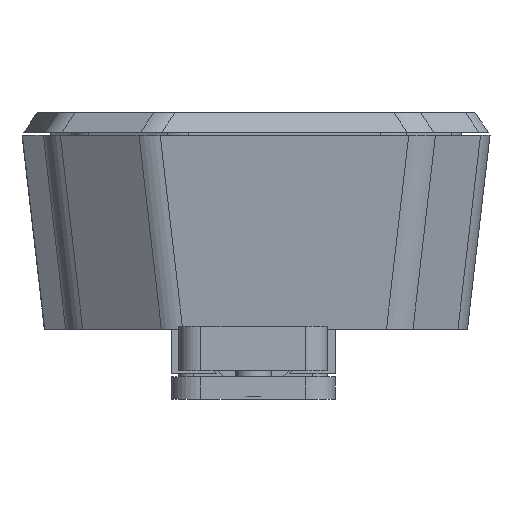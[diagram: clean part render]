
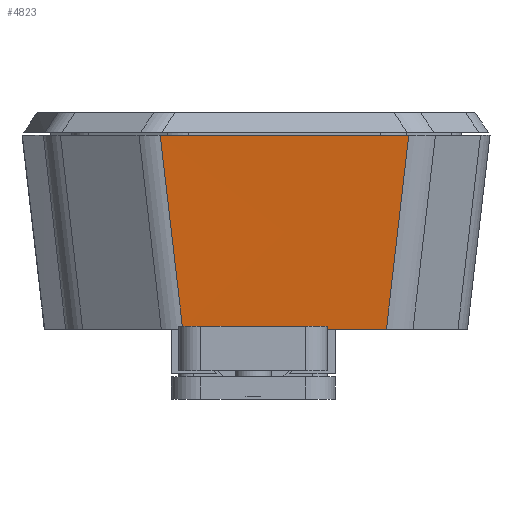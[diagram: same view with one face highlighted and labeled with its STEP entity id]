
A CAD part, left-side view. The second image highlights one B-rep face of the part: STEP entity #4823.
In plain terms, the highlighted free-form (B-spline) face has degree [1, 1] with [2, 2] control points.
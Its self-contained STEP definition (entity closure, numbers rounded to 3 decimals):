
#2220 = PLANE('',#2221);
#2221 = AXIS2_PLACEMENT_3D('',#2222,#2223,#2224);
#2222 = CARTESIAN_POINT('',(-28.377,-23.734,6.));
#2223 = DIRECTION('',(0.,0.,1.));
#2224 = DIRECTION('',(1.,0.,-0.));
#2287 = PLANE('',#2288);
#2288 = AXIS2_PLACEMENT_3D('',#2289,#2290,#2291);
#2289 = CARTESIAN_POINT('',(-31.349,-26.759,32.));
#2290 = DIRECTION('',(0.,0.,1.));
#2291 = DIRECTION('',(1.,0.,-0.));
#2312 = B_SPLINE_SURFACE_WITH_KNOTS('',6,1,(
    (#2313,#2314)
    ,(#2315,#2316)
    ,(#2317,#2318)
    ,(#2319,#2320)
    ,(#2321,#2322)
    ,(#2323,#2324)
    ,(#2325,#2326
    )),.UNSPECIFIED.,.F.,.F.,.F.,(7,7),(2,2),(3.169,
    3.98),(0.,1.),.PIECEWISE_BEZIER_KNOTS.);
#2313 = CARTESIAN_POINT('',(-40.069,-17.87,6.));
#2314 = CARTESIAN_POINT('',(-43.058,-20.854,32.));
#2315 = CARTESIAN_POINT('',(-40.047,-18.541,6.));
#2316 = CARTESIAN_POINT('',(-43.04,-21.53,32.));
#2317 = CARTESIAN_POINT('',(-39.917,-19.209,6.));
#2318 = CARTESIAN_POINT('',(-42.912,-22.203,32.));
#2319 = CARTESIAN_POINT('',(-39.68,-19.851,6.));
#2320 = CARTESIAN_POINT('',(-42.675,-22.85,32.));
#2321 = CARTESIAN_POINT('',(-39.342,-20.447,6.));
#2322 = CARTESIAN_POINT('',(-42.336,-23.45,32.));
#2323 = CARTESIAN_POINT('',(-38.915,-20.976,6.));
#2324 = CARTESIAN_POINT('',(-41.907,-23.984,32.));
#2325 = CARTESIAN_POINT('',(-38.416,-21.425,6.));
#2326 = CARTESIAN_POINT('',(-41.405,-24.436,32.));
#2725 = VERTEX_POINT('',#2726);
#2726 = CARTESIAN_POINT('',(-40.95,9.444,6.));
#2741 = B_SPLINE_SURFACE_WITH_KNOTS('',6,1,(
    (#2742,#2743)
    ,(#2744,#2745)
    ,(#2746,#2747)
    ,(#2748,#2749)
    ,(#2750,#2751)
    ,(#2752,#2753)
    ,(#2754,#2755
    )),.UNSPECIFIED.,.F.,.F.,.F.,(7,7),(2,2),(2.57,
    3.174),(0.,1.),.PIECEWISE_BEZIER_KNOTS.);
#2742 = CARTESIAN_POINT('',(-40.158,12.309,6.));
#2743 = CARTESIAN_POINT('',(-43.166,15.297,32.));
#2744 = CARTESIAN_POINT('',(-40.43,11.886,6.));
#2745 = CARTESIAN_POINT('',(-43.436,14.878,32.));
#2746 = CARTESIAN_POINT('',(-40.651,11.43,6.));
#2747 = CARTESIAN_POINT('',(-43.655,14.426,32.));
#2748 = CARTESIAN_POINT('',(-40.816,10.949,6.));
#2749 = CARTESIAN_POINT('',(-43.82,13.95,32.));
#2750 = CARTESIAN_POINT('',(-40.922,10.452,6.));
#2751 = CARTESIAN_POINT('',(-43.926,13.457,32.));
#2752 = CARTESIAN_POINT('',(-40.966,9.947,6.));
#2753 = CARTESIAN_POINT('',(-43.972,12.957,32.));
#2754 = CARTESIAN_POINT('',(-40.95,9.444,6.));
#2755 = CARTESIAN_POINT('',(-43.958,12.458,32.));
#2763 = EDGE_CURVE('',#2725,#2764,#2766,.T.);
#2764 = VERTEX_POINT('',#2765);
#2765 = CARTESIAN_POINT('',(-40.069,-17.87,6.));
#2766 = SURFACE_CURVE('',#2767,(#2771,#2778),.PCURVE_S1.);
#2767 = LINE('',#2768,#2769);
#2768 = CARTESIAN_POINT('',(-41.,11.,6.));
#2769 = VECTOR('',#2770,1.);
#2770 = DIRECTION('',(0.032,-0.999,0.));
#2771 = PCURVE('',#2220,#2772);
#2772 = DEFINITIONAL_REPRESENTATION('',(#2773),#2777);
#2773 = LINE('',#2774,#2775);
#2774 = CARTESIAN_POINT('',(-12.623,34.734));
#2775 = VECTOR('',#2776,1.);
#2776 = DIRECTION('',(0.032,-0.999));
#2777 = ( GEOMETRIC_REPRESENTATION_CONTEXT(2) 
PARAMETRIC_REPRESENTATION_CONTEXT() REPRESENTATION_CONTEXT('2D SPACE',''
  ) );
#2778 = PCURVE('',#2779,#2784);
#2779 = B_SPLINE_SURFACE_WITH_KNOTS('',1,1,(
    (#2780,#2781)
    ,(#2782,#2783
    )),.UNSPECIFIED.,.F.,.F.,.F.,(2,2),(2,2),(1.542,
    34.867),(0.,1.),.PIECEWISE_BEZIER_KNOTS.);
#2780 = CARTESIAN_POINT('',(-40.95,9.444,6.));
#2781 = CARTESIAN_POINT('',(-43.958,12.458,32.));
#2782 = CARTESIAN_POINT('',(-40.069,-17.87,6.));
#2783 = CARTESIAN_POINT('',(-43.058,-20.854,32.));
#2784 = DEFINITIONAL_REPRESENTATION('',(#2785),#2788);
#2785 = B_SPLINE_CURVE_WITH_KNOTS('',1,(#2786,#2787),.UNSPECIFIED.,.F.,
  .F.,(2,2),(1.557,28.885),.PIECEWISE_BEZIER_KNOTS.);
#2786 = CARTESIAN_POINT('',(1.542,0.));
#2787 = CARTESIAN_POINT('',(34.867,0.));
#2788 = ( GEOMETRIC_REPRESENTATION_CONTEXT(2) 
PARAMETRIC_REPRESENTATION_CONTEXT() REPRESENTATION_CONTEXT('2D SPACE',''
  ) );
#3233 = VERTEX_POINT('',#3234);
#3234 = CARTESIAN_POINT('',(-43.958,12.458,32.));
#3255 = EDGE_CURVE('',#3233,#3256,#3258,.T.);
#3256 = VERTEX_POINT('',#3257);
#3257 = CARTESIAN_POINT('',(-43.058,-20.854,32.));
#3258 = SURFACE_CURVE('',#3259,(#3263,#3270),.PCURVE_S1.);
#3259 = LINE('',#3260,#3261);
#3260 = CARTESIAN_POINT('',(-44.,14.,32.));
#3261 = VECTOR('',#3262,1.);
#3262 = DIRECTION('',(0.027,-1.,0.));
#3263 = PCURVE('',#2287,#3264);
#3264 = DEFINITIONAL_REPRESENTATION('',(#3265),#3269);
#3265 = LINE('',#3266,#3267);
#3266 = CARTESIAN_POINT('',(-12.651,40.759));
#3267 = VECTOR('',#3268,1.);
#3268 = DIRECTION('',(0.027,-1.));
#3269 = ( GEOMETRIC_REPRESENTATION_CONTEXT(2) 
PARAMETRIC_REPRESENTATION_CONTEXT() REPRESENTATION_CONTEXT('2D SPACE',''
  ) );
#3270 = PCURVE('',#2779,#3271);
#3271 = DEFINITIONAL_REPRESENTATION('',(#3272),#3276);
#3272 = LINE('',#3273,#3274);
#3273 = CARTESIAN_POINT('',(0.,1.));
#3274 = VECTOR('',#3275,1.);
#3275 = DIRECTION('',(1.,0.));
#3276 = ( GEOMETRIC_REPRESENTATION_CONTEXT(2) 
PARAMETRIC_REPRESENTATION_CONTEXT() REPRESENTATION_CONTEXT('2D SPACE',''
  ) );
#4804 = EDGE_CURVE('',#2764,#3256,#4805,.T.);
#4805 = SURFACE_CURVE('',#4806,(#4809,#4816),.PCURVE_S1.);
#4806 = B_SPLINE_CURVE_WITH_KNOTS('',1,(#4807,#4808),.UNSPECIFIED.,.F.,
  .F.,(2,2),(0.,1.),.PIECEWISE_BEZIER_KNOTS.);
#4807 = CARTESIAN_POINT('',(-40.069,-17.87,6.));
#4808 = CARTESIAN_POINT('',(-43.058,-20.854,32.));
#4809 = PCURVE('',#2312,#4810);
#4810 = DEFINITIONAL_REPRESENTATION('',(#4811),#4815);
#4811 = LINE('',#4812,#4813);
#4812 = CARTESIAN_POINT('',(3.169,0.));
#4813 = VECTOR('',#4814,1.);
#4814 = DIRECTION('',(0.,1.));
#4815 = ( GEOMETRIC_REPRESENTATION_CONTEXT(2) 
PARAMETRIC_REPRESENTATION_CONTEXT() REPRESENTATION_CONTEXT('2D SPACE',''
  ) );
#4816 = PCURVE('',#2779,#4817);
#4817 = DEFINITIONAL_REPRESENTATION('',(#4818),#4822);
#4818 = LINE('',#4819,#4820);
#4819 = CARTESIAN_POINT('',(34.867,0.));
#4820 = VECTOR('',#4821,1.);
#4821 = DIRECTION('',(0.,1.));
#4822 = ( GEOMETRIC_REPRESENTATION_CONTEXT(2) 
PARAMETRIC_REPRESENTATION_CONTEXT() REPRESENTATION_CONTEXT('2D SPACE',''
  ) );
#4823 = ADVANCED_FACE('',(#4824),#2779,.T.);
#4824 = FACE_BOUND('',#4825,.T.);
#4825 = EDGE_LOOP('',(#4826,#4827,#4828,#4829));
#4826 = ORIENTED_EDGE('',*,*,#2763,.T.);
#4827 = ORIENTED_EDGE('',*,*,#4804,.T.);
#4828 = ORIENTED_EDGE('',*,*,#3255,.F.);
#4829 = ORIENTED_EDGE('',*,*,#4830,.F.);
#4830 = EDGE_CURVE('',#2725,#3233,#4831,.T.);
#4831 = SURFACE_CURVE('',#4832,(#4835,#4842),.PCURVE_S1.);
#4832 = B_SPLINE_CURVE_WITH_KNOTS('',1,(#4833,#4834),.UNSPECIFIED.,.F.,
  .F.,(2,2),(0.,1.),.PIECEWISE_BEZIER_KNOTS.);
#4833 = CARTESIAN_POINT('',(-40.95,9.444,6.));
#4834 = CARTESIAN_POINT('',(-43.958,12.458,32.));
#4835 = PCURVE('',#2779,#4836);
#4836 = DEFINITIONAL_REPRESENTATION('',(#4837),#4841);
#4837 = LINE('',#4838,#4839);
#4838 = CARTESIAN_POINT('',(1.542,0.));
#4839 = VECTOR('',#4840,1.);
#4840 = DIRECTION('',(0.,1.));
#4841 = ( GEOMETRIC_REPRESENTATION_CONTEXT(2) 
PARAMETRIC_REPRESENTATION_CONTEXT() REPRESENTATION_CONTEXT('2D SPACE',''
  ) );
#4842 = PCURVE('',#2741,#4843);
#4843 = DEFINITIONAL_REPRESENTATION('',(#4844),#4848);
#4844 = LINE('',#4845,#4846);
#4845 = CARTESIAN_POINT('',(3.174,0.));
#4846 = VECTOR('',#4847,1.);
#4847 = DIRECTION('',(0.,1.));
#4848 = ( GEOMETRIC_REPRESENTATION_CONTEXT(2) 
PARAMETRIC_REPRESENTATION_CONTEXT() REPRESENTATION_CONTEXT('2D SPACE',''
  ) );
